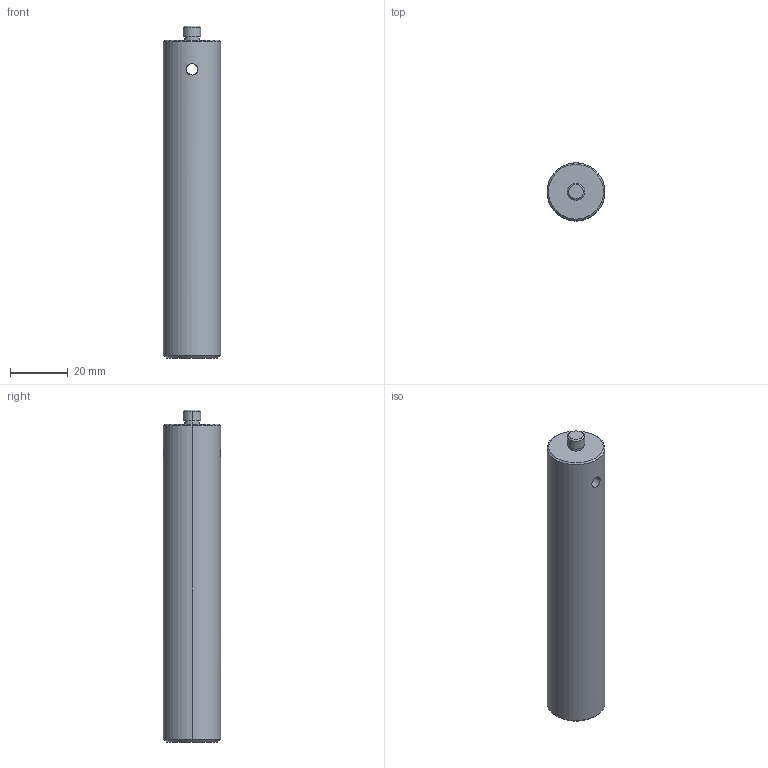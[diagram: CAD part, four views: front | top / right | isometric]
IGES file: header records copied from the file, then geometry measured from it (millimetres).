
Global section: file name: No Iges File Name specified; native system: AutoDesk Inventor R11.0; preprocessor: AutoDesk Inventor Iges Exporter R11.0; author: No Author specified; organization: No Organization specified; date: 20071024.153819; units: millimetre
Bounding box: 20 x 20 x 115 mm (x, y, z)
Volume: 34398.2 mm3; surface area: 7808.4 mm2
Topology: 1 solids, 1 shells, 18 faces, 38 edges, 24 vertices
Faces by surface type: cylinder 6, cone 6, plane 4, revolution 2
